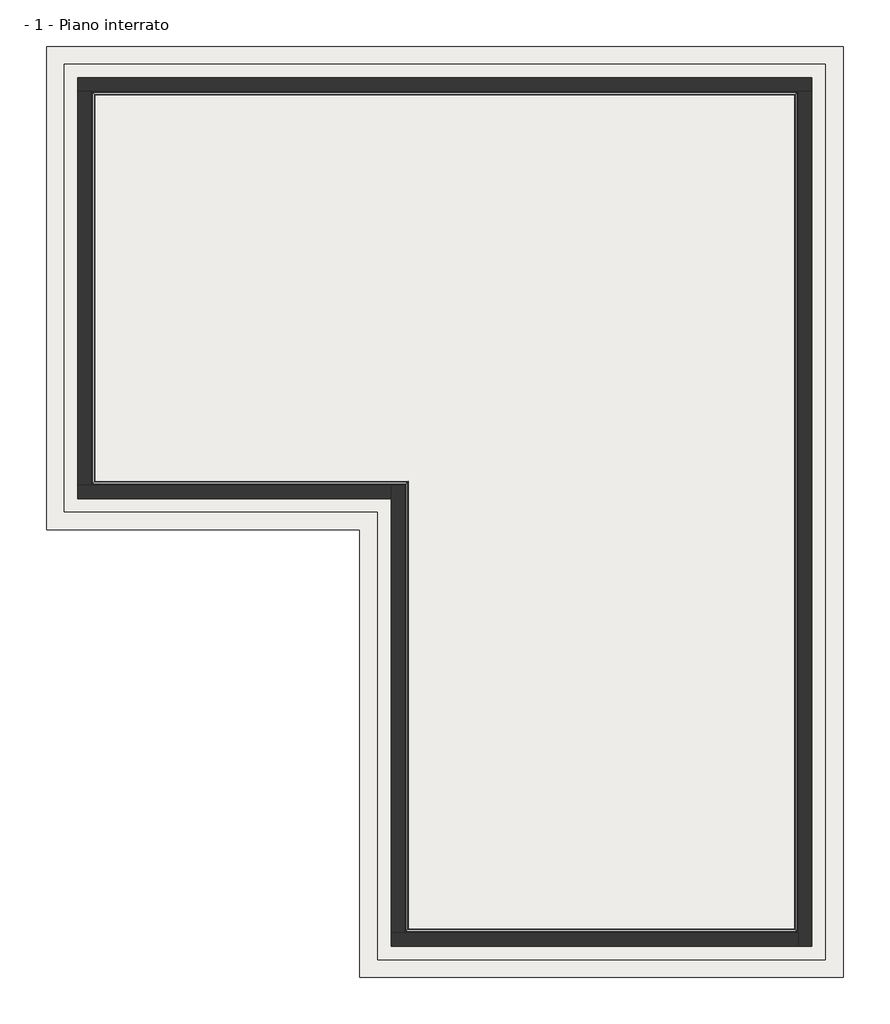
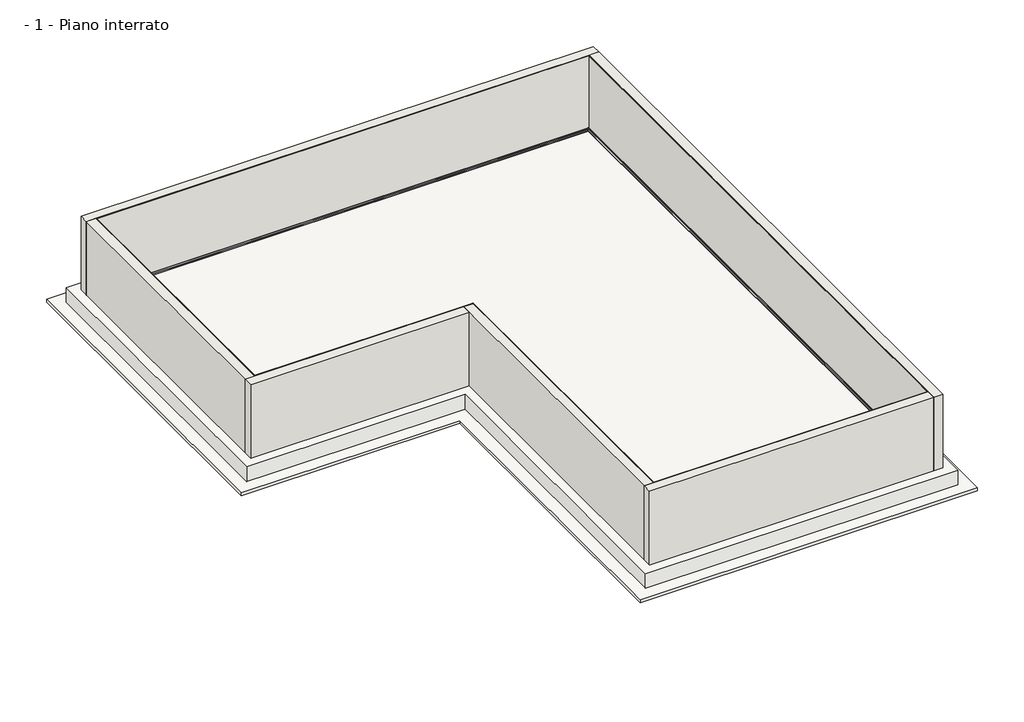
# One storey: 24 walls, 2 slabs, 1 proxy.
"""IFC4 building model written with IfcOpenShell, lengths in millimetres."""

from ifc_helpers import new_model, si_unit, frame, origin, place, context, project, spatial, polyline, outline, extrude, faceted_brep, element, save

model = new_model("IFC4")

# Units and contexts
model_context = context("Model", 3, world=origin())
ifc_project = project(units=[si_unit("LENGTHUNIT", "METRE", prefix="MILLI")], contexts=[model_context])

# Site, building, storey
site = spatial("IfcSite", under=ifc_project)
building = spatial("IfcBuilding", under=site)
storey = spatial("IfcBuildingStorey", under=building, Name="- 1 - Piano interrato", Elevation=-2500.0)

# Proxy
placement = place(None, origin())
element("IfcBuildingElementProxy", 1, Name="SISTEMA BI FLEX H.10 VOLTECO", ObjectType="SISTEMA BI FLEX H.10 VOLTECO", at=placement, inside=storey, context=model_context, shape_type="Brep", body=[
    faceted_brep([(10189.1031791, 8945.648913, -2500.0), (10191.6031791, 8948.148913, -2497.5), (10198.6031791, 8955.148913, -2497.5), (10200.1031791, 8956.648913, -2496.5), (10247.6031791, 9004.148913, -2496.5), (10247.6031791, 9004.148913, -2449.0), (10248.6031791, 9005.148913, -2447.5), (10248.6031791, 9005.148913, -2440.5), (10251.1031791, 9007.648913, -2438.0), (10251.1031791, 9007.648913, -2500.0), (10250.1031791, 9006.648913, -2449.0), (10249.1031791, 9005.648913, -2449.0), (10249.1031791, 9005.648913, -2498.0), (10200.1031791, 8956.648913, -2498.0), (10200.1031791, 8956.648913, -2499.0), (10250.1031791, 9006.648913, -2499.0), (10189.1031791, -9688.351087, -2500.0), (10251.1031791, -9750.351087, -2500.0), (10251.1031791, -9750.351087, -2438.0), (10248.6031791, -9747.851087, -2440.5), (10248.6031791, -9747.851087, -2447.5), (10247.6031791, -9746.851087, -2449.0), (10247.6031791, -9746.851087, -2496.5), (10200.1031791, -9699.351087, -2496.5), (10198.6031791, -9697.851087, -2497.5), (10191.6031791, -9690.851087, -2497.5), (10250.1031791, -9749.351087, -2449.0), (10250.1031791, -9749.351087, -2499.0), (10200.1031791, -9699.351087, -2499.0), (10200.1031791, -9699.351087, -2498.0), (10249.1031791, -9748.351087, -2498.0), (10249.1031791, -9748.351087, -2449.0)], [[[0, 1, 2, 3, 4, 5, 6, 7, 8, 9], [10, 11, 12, 13, 14, 15]], [[16, 17, 18, 19, 20, 21, 22, 23, 24, 25], [26, 27, 28, 29, 30, 31]], [[1, 0, 16, 25]], [[2, 1, 25, 24]], [[3, 2, 24, 23]], [[4, 3, 23, 22]], [[5, 4, 22, 21]], [[6, 5, 21, 20]], [[7, 6, 20, 19]], [[8, 7, 19, 18]], [[9, 8, 18, 17]], [[0, 9, 17, 16]], [[11, 10, 26, 31]], [[12, 11, 31, 30]], [[13, 12, 30, 29]], [[14, 13, 29, 28]], [[15, 14, 28, 27]], [[10, 15, 27, 26]]]),
    faceted_brep([(10189.1031791, -9688.351087, -2500.0), (10191.6031791, -9690.851087, -2497.5), (10198.6031791, -9697.851087, -2497.5), (10200.1031791, -9699.351087, -2496.5), (10247.6031791, -9746.851087, -2496.5), (10247.6031791, -9746.851087, -2449.0), (10248.6031791, -9747.851087, -2447.5), (10248.6031791, -9747.851087, -2440.5), (10251.1031791, -9750.351087, -2438.0), (10251.1031791, -9750.351087, -2500.0), (10250.1031791, -9749.351087, -2449.0), (10249.1031791, -9748.351087, -2449.0), (10249.1031791, -9748.351087, -2498.0), (10200.1031791, -9699.351087, -2498.0), (10200.1031791, -9699.351087, -2499.0), (10250.1031791, -9749.351087, -2499.0), (1555.1031791, -9688.351087, -2500.0), (1493.1031791, -9750.351087, -2500.0), (1493.1031791, -9750.351087, -2438.0), (1495.6031791, -9747.851087, -2440.5), (1495.6031791, -9747.851087, -2447.5), (1496.6031791, -9746.851087, -2449.0), (1496.6031791, -9746.851087, -2496.5), (1544.1031791, -9699.351087, -2496.5), (1545.6031791, -9697.851087, -2497.5), (1552.6031791, -9690.851087, -2497.5), (1494.1031791, -9749.351087, -2449.0), (1494.1031791, -9749.351087, -2499.0), (1544.1031791, -9699.351087, -2499.0), (1544.1031791, -9699.351087, -2498.0), (1495.1031791, -9748.351087, -2498.0), (1495.1031791, -9748.351087, -2449.0)], [[[0, 1, 2, 3, 4, 5, 6, 7, 8, 9], [10, 11, 12, 13, 14, 15]], [[16, 17, 18, 19, 20, 21, 22, 23, 24, 25], [26, 27, 28, 29, 30, 31]], [[1, 0, 16, 25]], [[2, 1, 25, 24]], [[3, 2, 24, 23]], [[4, 3, 23, 22]], [[5, 4, 22, 21]], [[6, 5, 21, 20]], [[7, 6, 20, 19]], [[8, 7, 19, 18]], [[9, 8, 18, 17]], [[0, 9, 17, 16]], [[11, 10, 26, 31]], [[12, 11, 31, 30]], [[13, 12, 30, 29]], [[14, 13, 29, 28]], [[15, 14, 28, 27]], [[10, 15, 27, 26]]]),
    faceted_brep([(1555.1031791, -9688.351087, -2500.0), (1552.6031791, -9690.851087, -2497.5), (1545.6031791, -9697.851087, -2497.5), (1544.1031791, -9699.351087, -2496.5), (1496.6031791, -9746.851087, -2496.5), (1496.6031791, -9746.851087, -2449.0), (1495.6031791, -9747.851087, -2447.5), (1495.6031791, -9747.851087, -2440.5), (1493.1031791, -9750.351087, -2438.0), (1493.1031791, -9750.351087, -2500.0), (1494.1031791, -9749.351087, -2449.0), (1495.1031791, -9748.351087, -2449.0), (1495.1031791, -9748.351087, -2498.0), (1544.1031791, -9699.351087, -2498.0), (1544.1031791, -9699.351087, -2499.0), (1494.1031791, -9749.351087, -2499.0), (1555.1031791, 311.648913, -2500.0), (1493.1031791, 249.648913, -2500.0), (1493.1031791, 249.648913, -2438.0), (1495.6031791, 252.148913, -2440.5), (1495.6031791, 252.148913, -2447.5), (1496.6031791, 253.148913, -2449.0), (1496.6031791, 253.148913, -2496.5), (1544.1031791, 300.648913, -2496.5), (1545.6031791, 302.148913, -2497.5), (1552.6031791, 309.148913, -2497.5), (1494.1031791, 250.648913, -2449.0), (1494.1031791, 250.648913, -2499.0), (1544.1031791, 300.648913, -2499.0), (1544.1031791, 300.648913, -2498.0), (1495.1031791, 251.648913, -2498.0), (1495.1031791, 251.648913, -2449.0)], [[[0, 1, 2, 3, 4, 5, 6, 7, 8, 9], [10, 11, 12, 13, 14, 15]], [[16, 17, 18, 19, 20, 21, 22, 23, 24, 25], [26, 27, 28, 29, 30, 31]], [[1, 0, 16, 25]], [[2, 1, 25, 24]], [[3, 2, 24, 23]], [[4, 3, 23, 22]], [[5, 4, 22, 21]], [[6, 5, 21, 20]], [[7, 6, 20, 19]], [[8, 7, 19, 18]], [[9, 8, 18, 17]], [[0, 9, 17, 16]], [[11, 10, 26, 31]], [[12, 11, 31, 30]], [[13, 12, 30, 29]], [[14, 13, 29, 28]], [[15, 14, 28, 27]], [[10, 15, 27, 26]]]),
    faceted_brep([(1555.1031791, 311.648913, -2500.0), (1552.6031791, 309.148913, -2497.5), (1545.6031791, 302.148913, -2497.5), (1544.1031791, 300.648913, -2496.5), (1496.6031791, 253.148913, -2496.5), (1496.6031791, 253.148913, -2449.0), (1495.6031791, 252.148913, -2447.5), (1495.6031791, 252.148913, -2440.5), (1493.1031791, 249.648913, -2438.0), (1493.1031791, 249.648913, -2500.0), (1494.1031791, 250.648913, -2449.0), (1495.1031791, 251.648913, -2449.0), (1495.1031791, 251.648913, -2498.0), (1544.1031791, 300.648913, -2498.0), (1544.1031791, 300.648913, -2499.0), (1494.1031791, 250.648913, -2499.0), (-5444.8968209, 311.648913, -2500.0), (-5506.8968209, 249.648913, -2500.0), (-5506.8968209, 249.648913, -2438.0), (-5504.3968209, 252.148913, -2440.5), (-5504.3968209, 252.148913, -2447.5), (-5503.3968209, 253.148913, -2449.0), (-5503.3968209, 253.148913, -2496.5), (-5455.8968209, 300.648913, -2496.5), (-5454.3968209, 302.148913, -2497.5), (-5447.3968209, 309.148913, -2497.5), (-5505.8968209, 250.648913, -2449.0), (-5505.8968209, 250.648913, -2499.0), (-5455.8968209, 300.648913, -2499.0), (-5455.8968209, 300.648913, -2498.0), (-5504.8968209, 251.648913, -2498.0), (-5504.8968209, 251.648913, -2449.0)], [[[0, 1, 2, 3, 4, 5, 6, 7, 8, 9], [10, 11, 12, 13, 14, 15]], [[16, 17, 18, 19, 20, 21, 22, 23, 24, 25], [26, 27, 28, 29, 30, 31]], [[1, 0, 16, 25]], [[2, 1, 25, 24]], [[3, 2, 24, 23]], [[4, 3, 23, 22]], [[5, 4, 22, 21]], [[6, 5, 21, 20]], [[7, 6, 20, 19]], [[8, 7, 19, 18]], [[9, 8, 18, 17]], [[0, 9, 17, 16]], [[11, 10, 26, 31]], [[12, 11, 31, 30]], [[13, 12, 30, 29]], [[14, 13, 29, 28]], [[15, 14, 28, 27]], [[10, 15, 27, 26]]]),
    faceted_brep([(-5444.8968209, 311.648913, -2500.0), (-5447.3968209, 309.148913, -2497.5), (-5454.3968209, 302.148913, -2497.5), (-5455.8968209, 300.648913, -2496.5), (-5503.3968209, 253.148913, -2496.5), (-5503.3968209, 253.148913, -2449.0), (-5504.3968209, 252.148913, -2447.5), (-5504.3968209, 252.148913, -2440.5), (-5506.8968209, 249.648913, -2438.0), (-5506.8968209, 249.648913, -2500.0), (-5505.8968209, 250.648913, -2449.0), (-5504.8968209, 251.648913, -2449.0), (-5504.8968209, 251.648913, -2498.0), (-5455.8968209, 300.648913, -2498.0), (-5455.8968209, 300.648913, -2499.0), (-5505.8968209, 250.648913, -2499.0), (-5444.8968209, 8945.648913, -2500.0), (-5506.8968209, 9007.648913, -2500.0), (-5506.8968209, 9007.648913, -2438.0), (-5504.3968209, 9005.148913, -2440.5), (-5504.3968209, 9005.148913, -2447.5), (-5503.3968209, 9004.148913, -2449.0), (-5503.3968209, 9004.148913, -2496.5), (-5455.8968209, 8956.648913, -2496.5), (-5454.3968209, 8955.148913, -2497.5), (-5447.3968209, 8948.148913, -2497.5), (-5505.8968209, 9006.648913, -2449.0), (-5505.8968209, 9006.648913, -2499.0), (-5455.8968209, 8956.648913, -2499.0), (-5455.8968209, 8956.648913, -2498.0), (-5504.8968209, 9005.648913, -2498.0), (-5504.8968209, 9005.648913, -2449.0)], [[[0, 1, 2, 3, 4, 5, 6, 7, 8, 9], [10, 11, 12, 13, 14, 15]], [[16, 17, 18, 19, 20, 21, 22, 23, 24, 25], [26, 27, 28, 29, 30, 31]], [[1, 0, 16, 25]], [[2, 1, 25, 24]], [[3, 2, 24, 23]], [[4, 3, 23, 22]], [[5, 4, 22, 21]], [[6, 5, 21, 20]], [[7, 6, 20, 19]], [[8, 7, 19, 18]], [[9, 8, 18, 17]], [[0, 9, 17, 16]], [[11, 10, 26, 31]], [[12, 11, 31, 30]], [[13, 12, 30, 29]], [[14, 13, 29, 28]], [[15, 14, 28, 27]], [[10, 15, 27, 26]]]),
    faceted_brep([(-5444.8968209, 8945.648913, -2500.0), (-5447.3968209, 8948.148913, -2497.5), (-5454.3968209, 8955.148913, -2497.5), (-5455.8968209, 8956.648913, -2496.5), (-5503.3968209, 9004.148913, -2496.5), (-5503.3968209, 9004.148913, -2449.0), (-5504.3968209, 9005.148913, -2447.5), (-5504.3968209, 9005.148913, -2440.5), (-5506.8968209, 9007.648913, -2438.0), (-5506.8968209, 9007.648913, -2500.0), (-5505.8968209, 9006.648913, -2449.0), (-5504.8968209, 9005.648913, -2449.0), (-5504.8968209, 9005.648913, -2498.0), (-5455.8968209, 8956.648913, -2498.0), (-5455.8968209, 8956.648913, -2499.0), (-5505.8968209, 9006.648913, -2499.0), (10189.1031791, 8945.648913, -2500.0), (10251.1031791, 9007.648913, -2500.0), (10251.1031791, 9007.648913, -2438.0), (10248.6031791, 9005.148913, -2440.5), (10248.6031791, 9005.148913, -2447.5), (10247.6031791, 9004.148913, -2449.0), (10247.6031791, 9004.148913, -2496.5), (10200.1031791, 8956.648913, -2496.5), (10198.6031791, 8955.148913, -2497.5), (10191.6031791, 8948.148913, -2497.5), (10250.1031791, 9006.648913, -2449.0), (10250.1031791, 9006.648913, -2499.0), (10200.1031791, 8956.648913, -2499.0), (10200.1031791, 8956.648913, -2498.0), (10249.1031791, 9005.648913, -2498.0), (10249.1031791, 9005.648913, -2449.0)], [[[0, 1, 2, 3, 4, 5, 6, 7, 8, 9], [10, 11, 12, 13, 14, 15]], [[16, 17, 18, 19, 20, 21, 22, 23, 24, 25], [26, 27, 28, 29, 30, 31]], [[1, 0, 16, 25]], [[2, 1, 25, 24]], [[3, 2, 24, 23]], [[4, 3, 23, 22]], [[5, 4, 22, 21]], [[6, 5, 21, 20]], [[7, 6, 20, 19]], [[8, 7, 19, 18]], [[9, 8, 18, 17]], [[0, 9, 17, 16]], [[11, 10, 26, 31]], [[12, 11, 31, 30]], [[13, 12, 30, 29]], [[14, 13, 29, 28]], [[15, 14, 28, 27]], [[10, 15, 27, 26]]]),
])

# Slabs
element("IfcSlab", 2, ObjectType="Blinding concrete", at=placement, inside=storey, context=model_context, shape_type="SweptSolid", body=[
    extrude(outline(polyline([(-6527.8968209, 10028.648913), (11272.1031791, 10028.648913), (11272.1031791, -10771.351087), (472.1031791, -10771.351087), (472.1031791, -771.351087), (-6527.8968209, -771.351087), (-6527.8968209, 10028.648913)])), frame((0.0, 0.0, -3100.0), z_axis=(0.0, 0.0, 1.0), x_axis=(1.0, 0.0, 0.0)), (0.0, 0.0, 1.0), 100.0),
])
element("IfcSlab", 3, ObjectType="Raft foundation", at=placement, inside=storey, context=model_context, shape_type="SweptSolid", body=[
    extrude(outline(polyline([(-6127.8968209, -371.351087), (-6127.8968209, 9628.648913), (10872.1031791, 9628.648913), (10872.1031791, -10371.351087), (872.1031791, -10371.351087), (872.1031791, -371.351087), (-6127.8968209, -371.351087)])), frame((0.0, 0.0, -3000.0), z_axis=(0.0, 0.0, 1.0), x_axis=(1.0, 0.0, 0.0)), (0.0, 0.0, 1.0), 500.0),
])

# Walls
element("IfcWall", 4, ObjectType="BI MORTAR PLASTER SEAL VOLTECO", at=placement, inside=storey, context=model_context, shape_type="Brep", body=[
    faceted_brep([(-5517.8968209, 228.648913, -2500.0), (-5517.8968209, 238.648913, -2500.0), (-5517.8968209, 239.648913, -2500.0), (-5517.8968209, 9018.648913, -2500.0), (-5517.8968209, 9028.648913, -2500.0), (-5517.8968209, 9028.648913, 0.0), (-5517.8968209, 9018.648913, 0.0), (-5517.8968209, 239.648913, 0.0), (-5517.8968209, 238.648913, 0.0), (-5517.8968209, 228.648913, 0.0), (-5527.8968209, 228.648913, -2500.0), (-5527.8968209, 228.648913, 0.0), (-5527.8968209, 9028.648913, 0.0), (-5527.8968209, 9028.648913, -2500.0)], [[[0, 1, 2, 3, 4, 5, 6, 7, 8, 9]], [[10, 11, 12, 13]], [[4, 3, 2, 1, 0, 10, 13]], [[9, 8, 7, 6, 5, 12, 11]], [[5, 4, 13, 12]], [[0, 9, 11, 10]]]),
])
element("IfcWall", 5, ObjectType="BI MORTAR PLASTER SEAL VOLTECO", at=placement, inside=storey, context=model_context, shape_type="Brep", body=[
    faceted_brep([(-5517.8968209, 9018.648913, -2500.0), (-5516.8968209, 9018.648913, -2500.0), (10262.1031791, 9018.648913, -2500.0), (10272.1031791, 9018.648913, -2500.0), (10272.1031791, 9018.648913, 0.0), (10262.1031791, 9018.648913, 0.0), (-5516.8968209, 9018.648913, 0.0), (-5517.8968209, 9018.648913, 0.0), (-5517.8968209, 9028.648913, -2500.0), (-5517.8968209, 9028.648913, 0.0), (10272.1031791, 9028.648913, 0.0), (10272.1031791, 9028.648913, -2500.0)], [[[0, 1, 2, 3, 4, 5, 6, 7]], [[8, 9, 10, 11]], [[3, 2, 1, 0, 8, 11]], [[7, 6, 5, 4, 10, 9]], [[4, 3, 11, 10]], [[0, 7, 9, 8]]]),
])
element("IfcWall", 6, ObjectType="BI MORTAR PLASTER SEAL VOLTECO", at=placement, inside=storey, context=model_context, shape_type="Brep", body=[
    faceted_brep([(10272.1031791, -9761.351087, -2500.0), (10262.1031791, -9761.351087, -2500.0), (10261.1031791, -9761.351087, -2500.0), (1482.1031791, -9761.351087, -2500.0), (1472.1031791, -9761.351087, -2500.0), (1472.1031791, -9761.351087, 0.0), (1482.1031791, -9761.351087, 0.0), (10261.1031791, -9761.351087, 0.0), (10262.1031791, -9761.351087, 0.0), (10272.1031791, -9761.351087, 0.0), (10272.1031791, -9771.351087, -2500.0), (10272.1031791, -9771.351087, 0.0), (1472.1031791, -9771.351087, 0.0), (1472.1031791, -9771.351087, -2500.0)], [[[0, 1, 2, 3, 4, 5, 6, 7, 8, 9]], [[10, 11, 12, 13]], [[4, 3, 2, 1, 0, 10, 13]], [[9, 8, 7, 6, 5, 12, 11]], [[5, 4, 13, 12]], [[0, 9, 11, 10]]]),
])
element("IfcWall", 7, ObjectType="BI MORTAR PLASTER SEAL VOLTECO", at=placement, inside=storey, context=model_context, shape_type="Brep", body=[
    faceted_brep([(1482.1031791, -9761.351087, -2500.0), (1482.1031791, -9760.351087, -2500.0), (1482.1031791, 238.648913, -2500.0), (1482.1031791, 238.648913, 0.0), (1482.1031791, -9760.351087, 0.0), (1482.1031791, -9761.351087, 0.0), (1472.1031791, -9761.351087, -2500.0), (1472.1031791, -9761.351087, 0.0), (1472.1031791, 228.648913, 0.0), (1472.1031791, 238.648913, 0.0), (1472.1031791, 238.648913, -2500.0), (1472.1031791, 228.648913, -2500.0)], [[[0, 1, 2, 3, 4, 5]], [[6, 7, 8, 9, 10, 11]], [[2, 1, 0, 6, 11, 10]], [[5, 4, 3, 9, 8, 7]], [[0, 5, 7, 6]], [[3, 2, 10, 9]]]),
])
element("IfcWall", 8, ObjectType="BI MORTAR PLASTER SEAL VOLTECO", at=placement, inside=storey, context=model_context, shape_type="SweptSolid", body=[
    extrude(outline(polyline([(-5517.8968209, 238.648913), (1472.1031791, 238.648913), (1472.1031791, 228.648913), (-5517.8968209, 228.648913), (-5517.8968209, 238.648913)])), frame((0.0, 0.0, -2500.0), z_axis=(0.0, 0.0, 1.0), x_axis=(1.0, 0.0, 0.0)), (0.0, 0.0, 1.0), 2500.0),
])
element("IfcWall", 9, ObjectType="REVOMAT VOLTECO", at=placement, inside=storey, context=model_context, shape_type="Brep", body=[
    faceted_brep([(1483.1031791, 239.648913, -2500.0), (-5506.8968209, 239.648913, -2500.0), (-5516.8968209, 239.648913, -2500.0), (-5517.8968209, 239.648913, -2500.0), (-5517.8968209, 239.648913, 0.0), (-5516.8968209, 239.648913, 0.0), (-5506.8968209, 239.648913, 0.0), (1483.1031791, 239.648913, 0.0), (1483.1031791, 238.648913, -2500.0), (1483.1031791, 238.648913, 0.0), (1482.1031791, 238.648913, 0.0), (-5517.8968209, 238.648913, 0.0), (-5517.8968209, 238.648913, -2500.0), (1482.1031791, 238.648913, -2500.0)], [[[0, 1, 2, 3, 4, 5, 6, 7]], [[8, 9, 10, 11, 12, 13]], [[3, 2, 1, 0, 8, 13, 12]], [[7, 6, 5, 4, 11, 10, 9]], [[4, 3, 12, 11]], [[0, 7, 9, 8]]]),
])
element("IfcWall", 10, ObjectType="REVOMAT VOLTECO", at=placement, inside=storey, context=model_context, shape_type="Brep", body=[
    faceted_brep([(-5516.8968209, 239.648913, -2500.0), (-5516.8968209, 9017.648913, -2500.0), (-5516.8968209, 9018.648913, -2500.0), (-5516.8968209, 9018.648913, 0.0), (-5516.8968209, 9017.648913, 0.0), (-5516.8968209, 239.648913, 0.0), (-5517.8968209, 239.648913, -2500.0), (-5517.8968209, 239.648913, 0.0), (-5517.8968209, 9018.648913, 0.0), (-5517.8968209, 9018.648913, -2500.0)], [[[0, 1, 2, 3, 4, 5]], [[6, 7, 8, 9]], [[2, 1, 0, 6, 9]], [[5, 4, 3, 8, 7]], [[3, 2, 9, 8]], [[0, 5, 7, 6]]]),
])
element("IfcWall", 11, ObjectType="BI MORTAR PLASTER SEAL VOLTECO", at=placement, inside=storey, context=model_context, shape_type="Brep", body=[
    faceted_brep([(10262.1031791, 9018.648913, -2500.0), (10262.1031791, 9017.648913, -2500.0), (10262.1031791, -9761.351087, -2500.0), (10262.1031791, -9761.351087, 0.0), (10262.1031791, 9017.648913, 0.0), (10262.1031791, 9018.648913, 0.0), (10272.1031791, 9018.648913, -2500.0), (10272.1031791, 9018.648913, 0.0), (10272.1031791, -9761.351087, 0.0), (10272.1031791, -9761.351087, -2500.0)], [[[0, 1, 2, 3, 4, 5]], [[6, 7, 8, 9]], [[2, 1, 0, 6, 9]], [[5, 4, 3, 8, 7]], [[3, 2, 9, 8]], [[0, 5, 7, 6]]]),
])
element("IfcWall", 12, ObjectType="REVOMAT VOLTECO", at=placement, inside=storey, context=model_context, shape_type="Brep", body=[
    faceted_brep([(-5516.8968209, 9017.648913, -2500.0), (-5506.8968209, 9017.648913, -2500.0), (10261.1031791, 9017.648913, -2500.0), (10262.1031791, 9017.648913, -2500.0), (10262.1031791, 9017.648913, 0.0), (10261.1031791, 9017.648913, 0.0), (-5506.8968209, 9017.648913, 0.0), (-5516.8968209, 9017.648913, 0.0), (-5516.8968209, 9018.648913, -2500.0), (-5516.8968209, 9018.648913, 0.0), (10262.1031791, 9018.648913, 0.0), (10262.1031791, 9018.648913, -2500.0)], [[[0, 1, 2, 3, 4, 5, 6, 7]], [[8, 9, 10, 11]], [[3, 2, 1, 0, 8, 11]], [[7, 6, 5, 4, 10, 9]], [[0, 7, 9, 8]], [[4, 3, 11, 10]]]),
])
element("IfcWall", 13, ObjectType="REVOMAT VOLTECO", at=placement, inside=storey, context=model_context, shape_type="Brep", body=[
    faceted_brep([(10261.1031791, 9017.648913, -2500.0), (10261.1031791, 9007.648913, -2500.0), (10261.1031791, -9760.351087, -2500.0), (10261.1031791, -9761.351087, -2500.0), (10261.1031791, -9761.351087, 0.0), (10261.1031791, -9760.351087, 0.0), (10261.1031791, 9007.648913, 0.0), (10261.1031791, 9017.648913, 0.0), (10262.1031791, 9017.648913, -2500.0), (10262.1031791, 9017.648913, 0.0), (10262.1031791, -9761.351087, 0.0), (10262.1031791, -9761.351087, -2500.0)], [[[0, 1, 2, 3, 4, 5, 6, 7]], [[8, 9, 10, 11]], [[3, 2, 1, 0, 8, 11]], [[7, 6, 5, 4, 10, 9]], [[4, 3, 11, 10]], [[0, 7, 9, 8]]]),
])
element("IfcWall", 14, ObjectType="REVOMAT VOLTECO", at=placement, inside=storey, context=model_context, shape_type="Brep", body=[
    faceted_brep([(10261.1031791, -9760.351087, -2500.0), (10251.1031791, -9760.351087, -2500.0), (1483.1031791, -9760.351087, -2500.0), (1482.1031791, -9760.351087, -2500.0), (1482.1031791, -9760.351087, 0.0), (1483.1031791, -9760.351087, 0.0), (10251.1031791, -9760.351087, 0.0), (10261.1031791, -9760.351087, 0.0), (10261.1031791, -9761.351087, -2500.0), (10261.1031791, -9761.351087, 0.0), (1482.1031791, -9761.351087, 0.0), (1482.1031791, -9761.351087, -2500.0)], [[[0, 1, 2, 3, 4, 5, 6, 7]], [[8, 9, 10, 11]], [[3, 2, 1, 0, 8, 11]], [[7, 6, 5, 4, 10, 9]], [[4, 3, 11, 10]], [[0, 7, 9, 8]]]),
])
element("IfcWall", 15, ObjectType="REVOMAT VOLTECO", at=placement, inside=storey, context=model_context, shape_type="Brep", body=[
    faceted_brep([(1483.1031791, -9760.351087, -2500.0), (1483.1031791, -9750.351087, -2500.0), (1483.1031791, 238.648913, -2500.0), (1483.1031791, 238.648913, 0.0), (1483.1031791, -9750.351087, 0.0), (1483.1031791, -9760.351087, 0.0), (1482.1031791, -9760.351087, -2500.0), (1482.1031791, -9760.351087, 0.0), (1482.1031791, 238.648913, 0.0), (1482.1031791, 238.648913, -2500.0)], [[[0, 1, 2, 3, 4, 5]], [[6, 7, 8, 9]], [[2, 1, 0, 6, 9]], [[5, 4, 3, 8, 7]], [[3, 2, 9, 8]], [[0, 5, 7, 6]]]),
])
element("IfcWall", 16, ObjectType="BI MORTAR PLASTER SEAL VOLTECO", at=placement, inside=storey, context=model_context, shape_type="Brep", body=[
    faceted_brep([(-5506.8968209, 239.648913, -2500.0), (-5506.8968209, 249.648913, -2500.0), (-5506.8968209, 9007.648913, -2500.0), (-5506.8968209, 9017.648913, -2500.0), (-5506.8968209, 9017.648913, 0.0), (-5506.8968209, 9007.648913, 0.0), (-5506.8968209, 249.648913, 0.0), (-5506.8968209, 239.648913, 0.0), (-5516.8968209, 239.648913, -2500.0), (-5516.8968209, 239.648913, 0.0), (-5516.8968209, 9017.648913, 0.0), (-5516.8968209, 9017.648913, -2500.0)], [[[0, 1, 2, 3, 4, 5, 6, 7]], [[8, 9, 10, 11]], [[3, 2, 1, 0, 8, 11]], [[7, 6, 5, 4, 10, 9]], [[0, 7, 9, 8]], [[4, 3, 11, 10]]]),
])
element("IfcWall", 17, ObjectType="BI MORTAR PLASTER SEAL VOLTECO", at=placement, inside=storey, context=model_context, shape_type="Brep", body=[
    faceted_brep([(-5506.8968209, 9007.648913, -2500.0), (10251.1031791, 9007.648913, -2500.0), (10261.1031791, 9007.648913, -2500.0), (10261.1031791, 9007.648913, 0.0), (10251.1031791, 9007.648913, 0.0), (-5506.8968209, 9007.648913, 0.0), (-5506.8968209, 9017.648913, -2500.0), (-5506.8968209, 9017.648913, 0.0), (10261.1031791, 9017.648913, 0.0), (10261.1031791, 9017.648913, -2500.0)], [[[0, 1, 2, 3, 4, 5]], [[6, 7, 8, 9]], [[2, 1, 0, 6, 9]], [[5, 4, 3, 8, 7]], [[3, 2, 9, 8]], [[0, 5, 7, 6]]]),
])
element("IfcWall", 18, ObjectType="BI MORTAR PLASTER SEAL VOLTECO", at=placement, inside=storey, context=model_context, shape_type="Brep", body=[
    faceted_brep([(10251.1031791, 9007.648913, -2500.0), (10251.1031791, -9750.351087, -2500.0), (10251.1031791, -9760.351087, -2500.0), (10251.1031791, -9760.351087, 0.0), (10251.1031791, -9750.351087, 0.0), (10251.1031791, 9007.648913, 0.0), (10261.1031791, 9007.648913, -2500.0), (10261.1031791, 9007.648913, 0.0), (10261.1031791, -9760.351087, 0.0), (10261.1031791, -9760.351087, -2500.0)], [[[0, 1, 2, 3, 4, 5]], [[6, 7, 8, 9]], [[2, 1, 0, 6, 9]], [[5, 4, 3, 8, 7]], [[3, 2, 9, 8]], [[0, 5, 7, 6]]]),
])
element("IfcWall", 19, ObjectType="BI MORTAR PLASTER SEAL VOLTECO", at=placement, inside=storey, context=model_context, shape_type="Brep", body=[
    faceted_brep([(10251.1031791, -9750.351087, -2500.0), (1493.1031791, -9750.351087, -2500.0), (1483.1031791, -9750.351087, -2500.0), (1483.1031791, -9750.351087, 0.0), (1493.1031791, -9750.351087, 0.0), (10251.1031791, -9750.351087, 0.0), (10251.1031791, -9760.351087, -2500.0), (10251.1031791, -9760.351087, 0.0), (1483.1031791, -9760.351087, 0.0), (1483.1031791, -9760.351087, -2500.0)], [[[0, 1, 2, 3, 4, 5]], [[6, 7, 8, 9]], [[2, 1, 0, 6, 9]], [[5, 4, 3, 8, 7]], [[3, 2, 9, 8]], [[0, 5, 7, 6]]]),
])
element("IfcWall", 20, ObjectType="BI MORTAR PLASTER SEAL VOLTECO", at=placement, inside=storey, context=model_context, shape_type="Brep", body=[
    faceted_brep([(1493.1031791, -9750.351087, -2500.0), (1493.1031791, 249.648913, -2500.0), (1493.1031791, 249.648913, 0.0), (1493.1031791, -9750.351087, 0.0), (1483.1031791, -9750.351087, -2500.0), (1483.1031791, -9750.351087, 0.0), (1483.1031791, 238.648913, 0.0), (1483.1031791, 239.648913, 0.0), (1483.1031791, 249.648913, 0.0), (1483.1031791, 249.648913, -2500.0), (1483.1031791, 239.648913, -2500.0), (1483.1031791, 238.648913, -2500.0)], [[[0, 1, 2, 3]], [[4, 5, 6, 7, 8, 9, 10, 11]], [[1, 0, 4, 11, 10, 9]], [[3, 2, 8, 7, 6, 5]], [[0, 3, 5, 4]], [[2, 1, 9, 8]]]),
])
element("IfcWall", 21, ObjectType="BI MORTAR PLASTER SEAL VOLTECO", at=placement, inside=storey, context=model_context, shape_type="SweptSolid", body=[
    extrude(outline(polyline([(-5506.8968209, 249.648913), (1483.1031791, 249.648913), (1483.1031791, 239.648913), (-5506.8968209, 239.648913), (-5506.8968209, 249.648913)])), frame((0.0, 0.0, -2500.0), z_axis=(0.0, 0.0, 1.0), x_axis=(1.0, 0.0, 0.0)), (0.0, 0.0, 1.0), 2500.0),
])
element("IfcWall", 22, ObjectType="RC Wall", at=placement, inside=storey, context=model_context, shape_type="Brep", body=[
    faceted_brep([(-5827.8968209, 9028.648913, -2500.0), (-5527.8968209, 9028.648913, -2500.0), (10272.1031791, 9028.648913, -2500.0), (10572.1031791, 9028.648913, -2500.0), (10572.1031791, 9028.648913, 0.0), (10272.1031791, 9028.648913, 0.0), (-5527.8968209, 9028.648913, 0.0), (-5827.8968209, 9028.648913, 0.0), (-5827.8968209, 9328.648913, -2500.0), (-5827.8968209, 9328.648913, 0.0), (10572.1031791, 9328.648913, 0.0), (10572.1031791, 9328.648913, -2500.0)], [[[0, 1, 2, 3, 4, 5, 6, 7]], [[8, 9, 10, 11]], [[3, 2, 1, 0, 8, 11]], [[7, 6, 5, 4, 10, 9]], [[4, 3, 11, 10]], [[0, 7, 9, 8]]]),
])
element("IfcWall", 23, ObjectType="RC Wall", at=placement, inside=storey, context=model_context, shape_type="Brep", body=[
    faceted_brep([(10272.1031791, 9028.648913, -2500.0), (10272.1031791, -9771.351087, -2500.0), (10272.1031791, -10071.351087, -2500.0), (10272.1031791, -10071.351087, 0.0), (10272.1031791, -9771.351087, 0.0), (10272.1031791, 9028.648913, 0.0), (10572.1031791, 9028.648913, -2500.0), (10572.1031791, 9028.648913, 0.0), (10572.1031791, -10071.351087, 0.0), (10572.1031791, -10071.351087, -2500.0)], [[[0, 1, 2, 3, 4, 5]], [[6, 7, 8, 9]], [[2, 1, 0, 6, 9]], [[5, 4, 3, 8, 7]], [[0, 5, 7, 6]], [[3, 2, 9, 8]]]),
])
element("IfcWall", 24, ObjectType="RC Wall", at=placement, inside=storey, context=model_context, shape_type="Brep", body=[
    faceted_brep([(10272.1031791, -9771.351087, -2500.0), (1472.1031791, -9771.351087, -2500.0), (1172.1031791, -9771.351087, -2500.0), (1172.1031791, -9771.351087, 0.0), (1472.1031791, -9771.351087, 0.0), (10272.1031791, -9771.351087, 0.0), (10272.1031791, -10071.351087, -2500.0), (10272.1031791, -10071.351087, 0.0), (1172.1031791, -10071.351087, 0.0), (1172.1031791, -10071.351087, -2500.0)], [[[0, 1, 2, 3, 4, 5]], [[6, 7, 8, 9]], [[2, 1, 0, 6, 9]], [[5, 4, 3, 8, 7]], [[0, 5, 7, 6]], [[3, 2, 9, 8]]]),
])
element("IfcWall", 25, ObjectType="RC Wall", at=placement, inside=storey, context=model_context, shape_type="Brep", body=[
    faceted_brep([(1472.1031791, -9771.351087, -2500.0), (1472.1031791, 228.648913, -2500.0), (1472.1031791, 228.648913, 0.0), (1472.1031791, -9771.351087, 0.0), (1172.1031791, -9771.351087, -2500.0), (1172.1031791, -9771.351087, 0.0), (1172.1031791, -71.351087, 0.0), (1172.1031791, 228.648913, 0.0), (1172.1031791, 228.648913, -2500.0), (1172.1031791, -71.351087, -2500.0)], [[[0, 1, 2, 3]], [[4, 5, 6, 7, 8, 9]], [[1, 0, 4, 9, 8]], [[3, 2, 7, 6, 5]], [[0, 3, 5, 4]], [[2, 1, 8, 7]]]),
])
element("IfcWall", 26, ObjectType="RC Wall", at=placement, inside=storey, context=model_context, shape_type="Brep", body=[
    faceted_brep([(1172.1031791, 228.648913, -2500.0), (-5527.8968209, 228.648913, -2500.0), (-5827.8968209, 228.648913, -2500.0), (-5827.8968209, 228.648913, 0.0), (-5527.8968209, 228.648913, 0.0), (1172.1031791, 228.648913, 0.0), (1172.1031791, -71.351087, -2500.0), (1172.1031791, -71.351087, 0.0), (-5827.8968209, -71.351087, 0.0), (-5827.8968209, -71.351087, -2500.0)], [[[0, 1, 2, 3, 4, 5]], [[6, 7, 8, 9]], [[2, 1, 0, 6, 9]], [[5, 4, 3, 8, 7]], [[0, 5, 7, 6]], [[3, 2, 9, 8]]]),
])
element("IfcWall", 27, ObjectType="RC Wall", at=placement, inside=storey, context=model_context, shape_type="SweptSolid", body=[
    extrude(outline(polyline([(-5527.8968209, 9028.648913), (-5527.8968209, 228.648913), (-5827.8968209, 228.648913), (-5827.8968209, 9028.648913), (-5527.8968209, 9028.648913)])), frame((0.0, 0.0, -2500.0), z_axis=(0.0, 0.0, 1.0), x_axis=(1.0, 0.0, 0.0)), (0.0, 0.0, 1.0), 2500.0),
])

save(model, "model.ifc")
